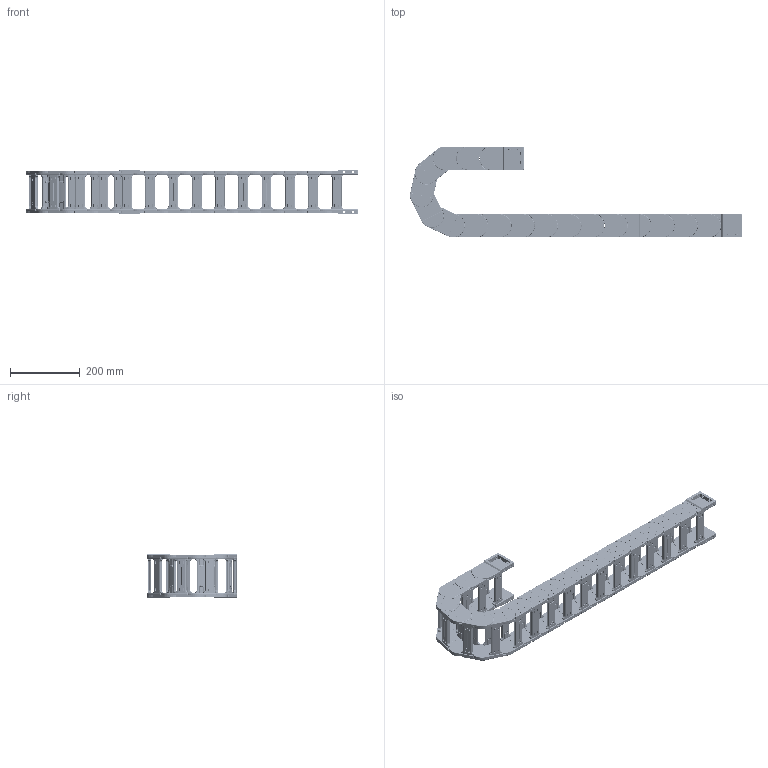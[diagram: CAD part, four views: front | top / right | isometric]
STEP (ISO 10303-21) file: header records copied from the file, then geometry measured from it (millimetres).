
FILE_DESCRIPTION (( 'STEP AP214' ), '1' );
FILE_NAME ('J45Q.1.100S-3D賦凳芞.STEP', '2019-01-10T00:10:20', ( 'Sky123.Org' ), ( 'Sky123.Org' ), 'SwSTEP 2.0', 'SolidWorks 2017', '' );
FILE_SCHEMA (( 'AUTOMOTIVE_DESIGN' ));
Length unit declared in the file: millimetre
Products named in the file (10): 45-崝Ч翋极2; 45-崝Ч翋极1-R250; J45Q.1.100S-3D賦凳芞; 5-N45X75-源諉俋; 45-N源諉芛俋; 5-N45X75-源諉囀; 45-臏簽1; 45-N源諉芛囀; 5-N45X100-1; J45.1結え
Assembly tree (55 placements, depth 3):
  J45Q.1.100S-3D賦凳芞
    5-N45X100-1  x17
      45-崝Ч翋极1-R250
      45-崝Ч翋极2
      J45.1結え
    5-N45X75-源諉囀
      45-N源諉芛囀  x2
      J45.1結え  x2
      45-臏簽1  x12
    5-N45X75-源諉俋
      45-N源諉芛俋  x2
      J45.1結え  x2
      45-臏簽1  x12
Bounding box: 954.91 x 261 x 129 mm (x, y, z)
Volume: 2685914.8 mm3; surface area: 1178056.3 mm2
Topology: 100 solids, 100 shells, 20080 faces, 51658 edges, 31520 vertices
Faces by surface type: plane 7348, cylinder 6440, bspline 3788, torus 1508, sphere 768, cone 228
Entity records: 33152 total; most frequent: CARTESIAN_POINT 10875, ORIENTED_EDGE 4608, DIRECTION 4494, EDGE_CURVE 2304, AXIS2_PLACEMENT_3D 1615, VERTEX_POINT 1438, LINE 1264, VECTOR 1264
